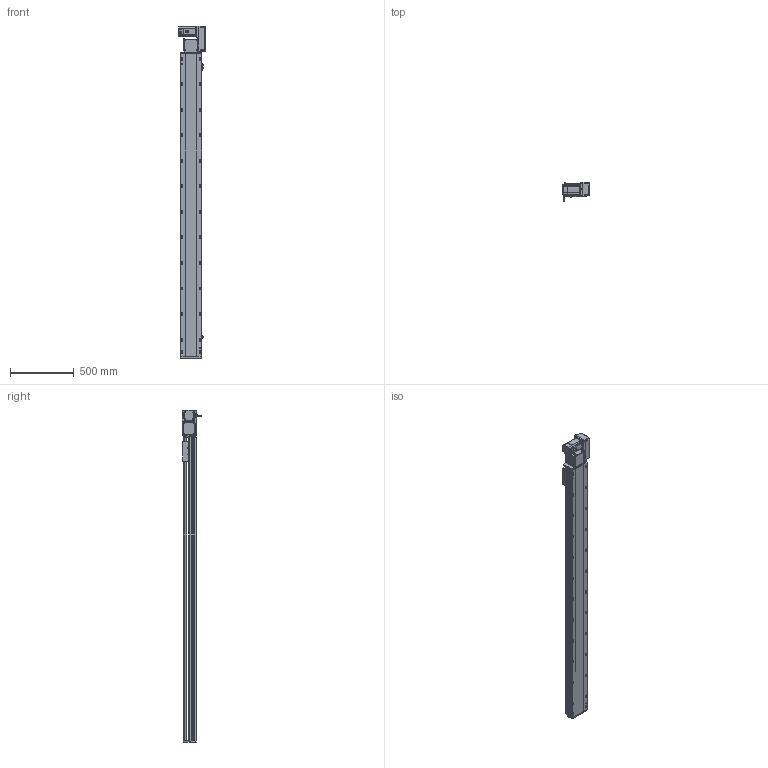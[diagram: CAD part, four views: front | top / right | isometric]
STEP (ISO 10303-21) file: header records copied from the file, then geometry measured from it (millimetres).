
FILE_DESCRIPTION (( 'STEP AP214' ), '1' );
FILE_NAME ('RTB17S-XX-2100-R-M75-C4.STEP', '2025-12-12T01:44:58', ( '' ), ( '' ), 'SwSTEP 2.0', 'SolidWorks 2018', '' );
FILE_SCHEMA (( 'AUTOMOTIVE_DESIGN' ));
Length unit declared in the file: millimetre
Products named in the file (15): RTB17S-賑釱^RTB17S-XX-XX-R-M75-C4; RTB17S-L-014-T20-P75--々湍釱^RTB17S-R-々湍釱蚾饜-750W_RTB17S-XX-XX-R-M75-C4; RTB17S-L-007奻裔^RTB17S-XX-XX-R-M75-C4; RTB22S-GY-017P^RTB17S-R-々湍釱蚾饜-750W_RTB17S-XX-XX-R-M75-C4; RTB22S-GY-018P^RTB17S-R-々湍釱蚾饜-750W_RTB17S-XX-XX-R-M75-C4; EE672^RTB17S-XX-XX-R-M75-C4; RTB17S-XX-2100-R-M75-C4; RTB17S-R-々湍釱蚾饜-750W^RTB17S-XX-XX-R-M75-C4; 750W萇儂^RTB17S-XX-XX-R-M75-C4; RTB17S-L-004-賑釱^RTB17S-賑釱_RTB17S-XX-XX-R-M75-C4; RTB17-R-011菁釱^RTB17S-XX-XX-R-M75-C4; RTH13-BL-012覜茼え俋离^RTB17S-賑釱_RTB17S-XX-XX-R-M75-C4; RTB22S-GY-005P^RTB17S-R-々湍釱蚾饜-750W_RTB17S-XX-XX-R-M75-C4; RTB22S-GY-008-M75--萇儂啣^RTB17S-R-々湍釱蚾饜-750W_RTB17S-XX-XX-R-M75-C4; RTB17S-L-001-耜醱啣^RTB17S-XX-XX-R-M75-C4
Assembly tree (17 placements, depth 3):
  RTB17S-XX-2100-R-M75-C4
    RTB17-R-011菁釱^RTB17S-XX-XX-R-M75-C4
    EE672^RTB17S-XX-XX-R-M75-C4  x3
    RTB17S-L-001-耜醱啣^RTB17S-XX-XX-R-M75-C4
    RTB17S-賑釱^RTB17S-XX-XX-R-M75-C4
      RTB17S-L-004-賑釱^RTB17S-賑釱_RTB17S-XX-XX-R-M75-C4
      RTH13-BL-012覜茼え俋离^RTB17S-賑釱_RTB17S-XX-XX-R-M75-C4
    RTB17S-L-007奻裔^RTB17S-XX-XX-R-M75-C4
    750W萇儂^RTB17S-XX-XX-R-M75-C4
    RTB17S-R-々湍釱蚾饜-750W^RTB17S-XX-XX-R-M75-C4
      RTB17S-L-014-T20-P75--々湍釱^RTB17S-R-々湍釱蚾饜-750W_RTB17S-XX-XX-R-M75-C4
      RTB22S-GY-005P^RTB17S-R-々湍釱蚾饜-750W_RTB17S-XX-XX-R-M75-C4
      RTB22S-GY-017P^RTB17S-R-々湍釱蚾饜-750W_RTB17S-XX-XX-R-M75-C4  x2
      RTB22S-GY-008-M75--萇儂啣^RTB17S-R-々湍釱蚾饜-750W_RTB17S-XX-XX-R-M75-C4
      RTB22S-GY-018P^RTB17S-R-々湍釱蚾饜-750W_RTB17S-XX-XX-R-M75-C4
Bounding box: 207.4 x 152.7 x 2599 mm (x, y, z)
Volume: 19074792.7 mm3; surface area: 3422980.5 mm2
Topology: 17 solids, 17 shells, 2185 faces, 6106 edges, 3950 vertices
Faces by surface type: plane 982, cylinder 787, bspline 294, cone 110, sphere 8, torus 4
Entity records: 62710 total; most frequent: CARTESIAN_POINT 18570, ORIENTED_EDGE 9056, DIRECTION 8402, EDGE_CURVE 4528, AXIS2_PLACEMENT_3D 2970, VERTEX_POINT 2954, VECTOR 2462, LINE 2462
